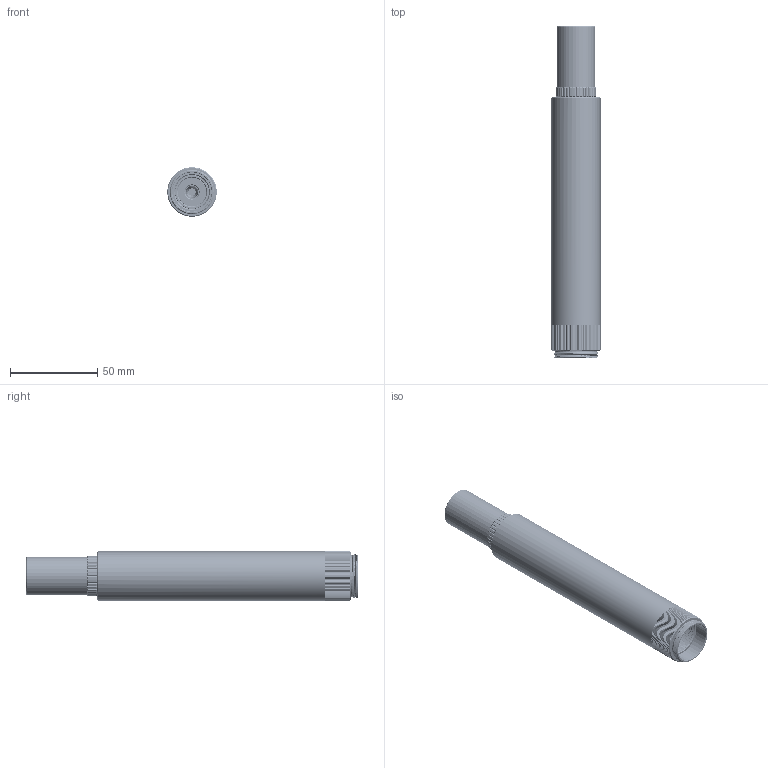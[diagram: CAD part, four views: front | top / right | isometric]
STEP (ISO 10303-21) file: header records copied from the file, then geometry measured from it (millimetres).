
FILE_DESCRIPTION((''),'2;1');
FILE_NAME('TMN_8-5_4','2019-02-12T',('kevin.wileman'),(''),'CREO PARAMETRIC BY PTC INC, 2015480','CREO PARAMETRIC BY PTC INC, 2015480','');
FILE_SCHEMA(('AUTOMOTIVE_DESIGN { 1 0 10303 214 1 1 1 1 }'));
Products named in the file (1): TMN_8-5_4
Bounding box: 28.3 x 190.05 x 28.3 mm (x, y, z)
Volume: 59739.3 mm3; surface area: 40310.1 mm2
Topology: 1 solids, 1 shells, 2355 faces, 6661 edges, 4329 vertices
Faces by surface type: plane 1347, cylinder 693, bspline 255, cone 54, torus 6
Entity records: 196008 total; most frequent: CARTESIAN_POINT 139005, ORIENTED_EDGE 13322, DIRECTION 9294, EDGE_CURVE 6661, VERTEX_POINT 4329, VECTOR 3286, LINE 3286, AXIS2_PLACEMENT_3D 3004
